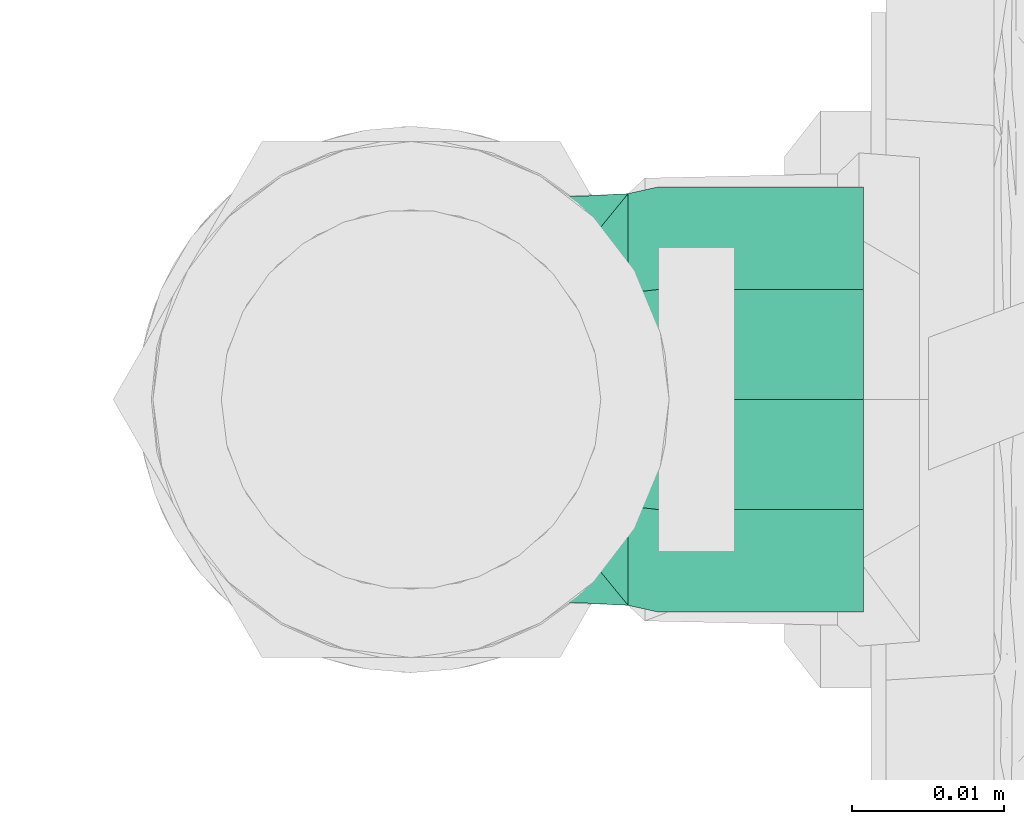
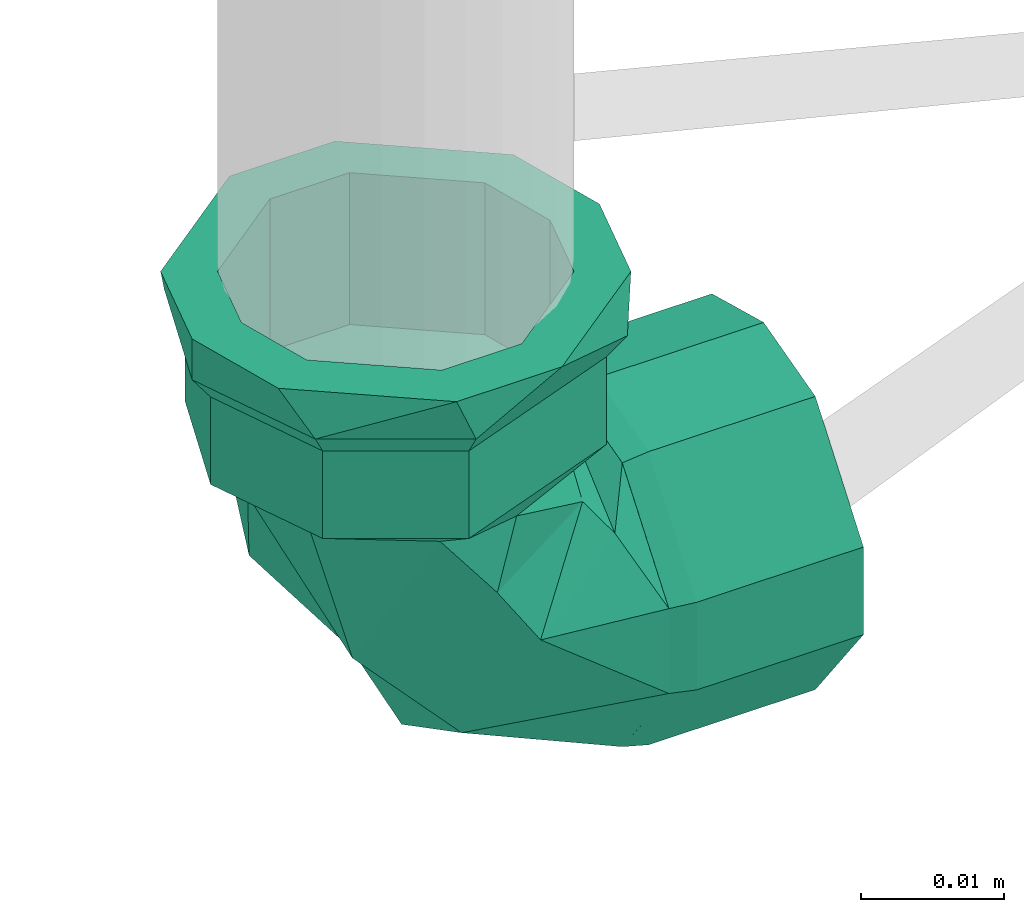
# One storey, part 392 of 589: 1 flow fitting.
"""IFC2X3 building model written with IfcOpenShell, lengths in millimetres."""

from ifc_helpers import new_model, entity, si_unit, converted_unit, derived_unit, direction, frame, origin, place, context, subcontext, project, spatial, faceted_brep, source, transform, mapped, material, type_object, type_shapes, element, save


model = new_model("IFC2X3")

# Units and contexts
model_context = context("Model", 3, precision=0.01, world=origin(), true_north=direction((6.123031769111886e-17, 1.0)))
body_context = subcontext(model_context, "Body", "Model", "MODEL_VIEW")
ifc_project = project(units=[si_unit("LENGTHUNIT", "METRE", prefix="MILLI"), si_unit("AREAUNIT", "SQUARE_METRE"), si_unit("VOLUMEUNIT", "CUBIC_METRE"), converted_unit("PLANEANGLEUNIT", "DEGREE", entity("IfcRatioMeasure", 0.017453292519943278), si_unit("PLANEANGLEUNIT", "RADIAN"), dimensions=[0, 0, 0, 0, 0, 0, 0]), si_unit("MASSUNIT", "GRAM", prefix="KILO"), derived_unit("MASSDENSITYUNIT", [(si_unit("MASSUNIT", "GRAM", prefix="KILO"), 1), (si_unit("LENGTHUNIT", "METRE"), -3)]), derived_unit("IONCONCENTRATIONUNIT", [(si_unit("MASSUNIT", "GRAM", prefix="KILO"), 1), (si_unit("LENGTHUNIT", "METRE"), -3)]), derived_unit("MOMENTOFINERTIAUNIT", [(si_unit("LENGTHUNIT", "METRE"), 4)]), si_unit("TIMEUNIT", "SECOND"), si_unit("FREQUENCYUNIT", "HERTZ"), si_unit("THERMODYNAMICTEMPERATUREUNIT", "DEGREE_CELSIUS"), derived_unit("THERMALTRANSMITTANCEUNIT", [(si_unit("MASSUNIT", "GRAM", prefix="KILO"), 1), (si_unit("THERMODYNAMICTEMPERATUREUNIT", "KELVIN"), -1), (si_unit("TIMEUNIT", "SECOND"), -3)]), derived_unit("THERMALCONDUCTANCEUNIT", [(si_unit("MASSUNIT", "GRAM", prefix="KILO"), 1), (si_unit("THERMODYNAMICTEMPERATUREUNIT", "KELVIN"), -1), (si_unit("TIMEUNIT", "SECOND"), -3), (si_unit("LENGTHUNIT", "METRE"), 1)]), derived_unit("VOLUMETRICFLOWRATEUNIT", [(si_unit("LENGTHUNIT", "METRE"), 3), (si_unit("TIMEUNIT", "SECOND"), -1)]), derived_unit("MASSFLOWRATEUNIT", [(si_unit("MASSUNIT", "GRAM", prefix="KILO"), 1), (si_unit("TIMEUNIT", "SECOND"), -1)]), derived_unit("ROTATIONALFREQUENCYUNIT", [(si_unit("TIMEUNIT", "SECOND"), -1)]), si_unit("ELECTRICCURRENTUNIT", "AMPERE"), si_unit("ELECTRICVOLTAGEUNIT", "VOLT"), si_unit("POWERUNIT", "WATT"), si_unit("FORCEUNIT", "NEWTON", prefix="KILO"), si_unit("ILLUMINANCEUNIT", "LUX"), si_unit("LUMINOUSFLUXUNIT", "LUMEN"), si_unit("LUMINOUSINTENSITYUNIT", "CANDELA"), derived_unit("USERDEFINED", [(si_unit("MASSUNIT", "GRAM", prefix="KILO"), -1), (si_unit("LENGTHUNIT", "METRE"), -2), (si_unit("TIMEUNIT", "SECOND"), 3), (si_unit("LUMINOUSFLUXUNIT", "LUMEN"), 1)]), derived_unit("USERDEFINED", [(si_unit("MASSUNIT", "GRAM", prefix="KILO"), 1), (si_unit("TIMEUNIT", "SECOND"), -3), (si_unit("LENGTHUNIT", "METRE"), 3), (si_unit("ELECTRICCURRENTUNIT", "AMPERE"), -2)]), derived_unit("SOUNDPOWERUNIT", [(si_unit("MASSUNIT", "GRAM", prefix="KILO"), 1), (si_unit("TIMEUNIT", "SECOND"), -3), (si_unit("LENGTHUNIT", "METRE"), 2)]), derived_unit("SOUNDPRESSUREUNIT", [(si_unit("MASSUNIT", "GRAM", prefix="KILO"), 1), (si_unit("LENGTHUNIT", "METRE"), -1), (si_unit("TIMEUNIT", "SECOND"), -2)]), derived_unit("LINEARVELOCITYUNIT", [(si_unit("LENGTHUNIT", "METRE"), 1), (si_unit("TIMEUNIT", "SECOND"), -1)]), si_unit("PRESSUREUNIT", "PASCAL"), derived_unit("USERDEFINED", [(si_unit("MASSUNIT", "GRAM", prefix="KILO"), 1), (si_unit("LENGTHUNIT", "METRE"), -2), (si_unit("TIMEUNIT", "SECOND"), -2)]), derived_unit("LINEARFORCEUNIT", [(si_unit("MASSUNIT", "GRAM", prefix="KILO"), 1), (si_unit("TIMEUNIT", "SECOND"), -2)]), derived_unit("PLANARFORCEUNIT", [(si_unit("MASSUNIT", "GRAM", prefix="KILO"), 1), (si_unit("LENGTHUNIT", "METRE"), -1), (si_unit("TIMEUNIT", "SECOND"), -2)]), derived_unit("SPECIFICHEATCAPACITYUNIT", [(si_unit("THERMODYNAMICTEMPERATUREUNIT", "KELVIN"), -1), (si_unit("LENGTHUNIT", "METRE"), 2), (si_unit("TIMEUNIT", "SECOND"), -2)]), derived_unit("HEATINGVALUEUNIT", [(si_unit("LENGTHUNIT", "METRE"), 2), (si_unit("TIMEUNIT", "SECOND"), -2)]), derived_unit("VAPORPERMEABILITYUNIT", [(si_unit("LENGTHUNIT", "METRE"), -1), (si_unit("TIMEUNIT", "SECOND"), 1)]), derived_unit("DYNAMICVISCOSITYUNIT", [(si_unit("MASSUNIT", "GRAM", prefix="KILO"), 1), (si_unit("TIMEUNIT", "SECOND"), -1), (si_unit("LENGTHUNIT", "METRE"), -1)]), derived_unit("THERMALEXPANSIONCOEFFICIENTUNIT", [(si_unit("THERMODYNAMICTEMPERATUREUNIT", "KELVIN"), -1)]), derived_unit("MODULUSOFELASTICITYUNIT", [(si_unit("MASSUNIT", "GRAM", prefix="KILO"), 1), (si_unit("LENGTHUNIT", "METRE"), -1), (si_unit("TIMEUNIT", "SECOND"), -2)]), derived_unit("ISOTHERMALMOISTURECAPACITYUNIT", [(si_unit("LENGTHUNIT", "METRE"), 3), (si_unit("MASSUNIT", "GRAM", prefix="KILO"), -1)]), derived_unit("MOISTUREDIFFUSIVITYUNIT", [(si_unit("TIMEUNIT", "SECOND"), -1), (si_unit("LENGTHUNIT", "METRE"), 2)])], contexts=[model_context])

# Site, building, storey
site_placement = place(None, origin())
site = spatial("IfcSite", under=ifc_project, at=site_placement, Name="Default", CompositionType="ELEMENT")
building_placement = place(site_placement, origin())
building = spatial("IfcBuilding", under=site, at=building_placement, CompositionType="ELEMENT")
storey_placement = place(building_placement, frame((0.0, 0.0, 100.0)))
storey = spatial("IfcBuildingStorey", under=building, at=storey_placement, Name="TÉRREO", CompositionType="ELEMENT", Elevation=100.0)

# Flow fitting
ifc_material = material(Name="PVC Azul")
pipe_fitting_type = type_object("IfcPipeFittingType", Name="PVC Marrom Soldável_Joelho 90° Azul com Bucha de Latão_Rodrigo MEP:Joelho_20x1/2''_ 25x1/2''_ 25x3/4'' _ 32x3/4''", PredefinedType="NOTDEFINED", material=ifc_material)
shared_shape = source(origin(), body_context, "Body", "Brep", [
    faceted_brep([(-16.299999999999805, 2.5881904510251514, -9.659258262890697), (-16.299999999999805, -2.588190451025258, -9.659258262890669), (-16.299999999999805, -3.7528761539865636, -14.005924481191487), (-16.299999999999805, 3.7528761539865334, -14.005924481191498), (-16.299999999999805, 8.660254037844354, -5.0), (-16.299999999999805, -12.557368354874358, -7.249999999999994), (-16.299999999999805, -8.660254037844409, -5.0), (-16.299999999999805, -10.0, 0.0), (-16.299999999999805, -14.499999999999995, 0.0), (-16.299999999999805, -8.660254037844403, 5.0), (-16.299999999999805, -12.557368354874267, 7.250000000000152), (-16.299999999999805, -2.5881904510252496, 9.659258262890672), (-16.299999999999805, -3.752876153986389, 14.005924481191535), (-16.299999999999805, 2.5881904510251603, 9.659258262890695), (-16.299999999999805, 3.752876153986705, 14.005924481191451), (-16.299999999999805, 8.660254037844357, 5.0), (-16.299999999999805, 12.557368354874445, 7.2499999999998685), (-16.299999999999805, 14.500000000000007, 0.0), (-16.299999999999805, 10.0, 0.0), (-16.299999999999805, 12.557368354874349, -7.250000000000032), (-23.799999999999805, 14.500000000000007, 0.0), (-25.7999999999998, 14.500000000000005, 0.0), (-29.7999999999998, 14.500000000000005, 0.0), (-29.7999999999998, 12.557368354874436, 7.24999999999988), (-25.7999999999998, 12.557368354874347, 7.250000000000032), (-23.799999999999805, 12.557368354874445, 7.2499999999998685), (-29.7999999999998, 3.7528761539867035, 14.005924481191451), (-25.7999999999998, 3.7528761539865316, 14.005924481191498), (-23.799999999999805, 3.752876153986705, 14.005924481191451), (-29.7999999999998, -3.75287615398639, 14.005924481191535), (-25.7999999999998, -3.752876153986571, 14.005924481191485), (-23.799999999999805, -3.752876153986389, 14.005924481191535), (-29.7999999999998, -12.557368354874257, 7.250000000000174), (-25.7999999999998, -12.557368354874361, 7.24999999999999), (-23.799999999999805, -12.557368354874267, 7.250000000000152), (-29.7999999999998, -14.499999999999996, 0.0), (-25.7999999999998, -14.499999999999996, 0.0), (-23.799999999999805, -14.499999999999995, 0.0), (-29.7999999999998, -12.557368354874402, -7.249999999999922), (-25.7999999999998, -12.557368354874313, -7.250000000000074), (-23.799999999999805, -12.557368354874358, -7.249999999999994), (-29.7999999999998, -3.752876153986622, -14.005924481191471), (-25.7999999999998, -3.752876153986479, -14.00592448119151), (-23.799999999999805, -3.7528761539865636, -14.005924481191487), (-29.7999999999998, 3.752876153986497, -14.005924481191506), (-25.7999999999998, 3.7528761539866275, -14.005924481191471), (-23.799999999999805, 3.7528761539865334, -14.005924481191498), (-29.7999999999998, 12.557368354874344, -7.250000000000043), (-25.7999999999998, 12.55736835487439, -7.249999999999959), (-23.799999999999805, 12.557368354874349, -7.250000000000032), (-29.7999999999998, -10.0, 0.0), (-29.7999999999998, -8.660254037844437, 5.0), (-29.7999999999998, -2.5881904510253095, 9.659258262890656), (-29.7999999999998, 2.5881904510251, 9.659258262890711), (-29.7999999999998, 8.660254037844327, 5.0), (-29.79999999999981, 10.0, 0.0), (-29.7999999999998, 8.660254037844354, -5.0), (-29.7999999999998, 2.588190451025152, -9.659258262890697), (-29.7999999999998, -2.588190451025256, -9.659258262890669), (-29.7999999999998, -8.66025403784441, -5.0)], [[[0, 1, 2]], [[2, 3, 0]], [[4, 0, 3]], [[5, 2, 1]], [[1, 6, 5]], [[6, 7, 5]], [[8, 5, 7]], [[8, 7, 9]], [[10, 8, 9]], [[9, 11, 10]], [[11, 12, 10]], [[13, 12, 11]], [[12, 13, 14]], [[13, 15, 14]], [[16, 14, 15]], [[16, 15, 17]], [[17, 15, 18]], [[18, 4, 19]], [[17, 18, 19]], [[3, 19, 4]], [[17, 20, 21, 22, 23, 24, 25, 16]], [[16, 25, 24, 23, 26, 27, 28, 14]], [[28, 27, 26, 29, 30, 31, 12, 14]], [[12, 31, 30, 29, 32, 33, 34, 10]], [[10, 34, 33, 32, 35, 36, 37, 8]], [[8, 37, 36, 35, 38, 39, 40, 5]], [[5, 40, 39, 38, 41, 42, 43, 2]], [[43, 42, 41, 44, 45, 46, 3, 2]], [[3, 46, 45, 44, 47, 48, 49, 19]], [[19, 49, 48, 47, 22, 21, 20, 17]], [[9, 7, 50, 51]], [[11, 9, 51, 52]], [[52, 53, 13, 11]], [[15, 13, 53, 54]], [[18, 15, 54, 55]], [[4, 18, 55, 56]], [[0, 4, 56, 57]], [[57, 58, 1, 0]], [[6, 1, 58, 59]], [[7, 6, 59, 50]], [[41, 58, 57]], [[58, 41, 38]], [[57, 44, 41]], [[38, 59, 58]], [[38, 50, 59]], [[50, 38, 35]], [[51, 50, 35]], [[51, 35, 32]], [[32, 52, 51]], [[32, 29, 52]], [[52, 29, 53]], [[26, 53, 29]], [[26, 54, 53]], [[54, 26, 23]], [[22, 54, 23]], [[55, 54, 22]], [[47, 55, 22]], [[47, 56, 55]], [[56, 47, 44]], [[44, 57, 56]]]),
    faceted_brep([(-16.299999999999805, -12.557368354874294, -7.250000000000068), (-16.299999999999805, -14.499999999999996, 0.0), (-16.299999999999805, -12.55736835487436, 7.249999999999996), (-16.299999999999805, -3.752876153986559, 14.005924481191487), (-16.299999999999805, 3.752876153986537, 14.005924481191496), (-16.299999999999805, 12.557368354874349, 7.250000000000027), (-16.299999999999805, 14.500000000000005, 0.0), (-16.299999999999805, 12.557368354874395, -7.249999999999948), (-16.299999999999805, 3.75287615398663, -14.005924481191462), (-16.299999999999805, -3.7528761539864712, -14.005924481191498), (-14.299999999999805, 3.6338193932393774, 13.56159860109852), (-14.299999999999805, -3.633819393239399, 13.561598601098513), (-14.299999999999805, -12.158996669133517, 7.019999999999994), (-14.299999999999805, -14.039999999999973, 0.0), (-14.299999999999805, -12.158996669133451, -7.020000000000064), (-14.299999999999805, -3.6338193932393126, -13.561598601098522), (-14.299999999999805, 3.633819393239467, -13.561598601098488), (-14.299999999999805, 12.158996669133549, -7.01999999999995), (-14.299999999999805, 14.040000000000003, 0.0), (-14.299999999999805, 12.158996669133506, 7.020000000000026)], [[[0, 1, 2, 3, 4, 5, 6, 7, 8, 9]], [[10, 11, 12, 13, 14, 15, 16, 17, 18, 19]], [[7, 6, 18, 17]], [[8, 7, 17, 16]], [[16, 15, 9, 8]], [[0, 9, 15, 14]], [[1, 0, 14, 13]], [[2, 1, 13, 12]], [[3, 2, 12, 11]], [[11, 10, 4, 3]], [[5, 4, 10, 19]], [[6, 5, 19, 18]]]),
    faceted_brep([(-3.1058285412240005, 14.30000000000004, 11.591109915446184), (-10.392304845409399, 14.30000000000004, 6.0), (-12.0, 14.30000000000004, 0.0), (-10.392304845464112, 14.30000000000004, -6.0), (-3.105828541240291, 14.30000000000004, -11.591109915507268), (3.1058285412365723, 14.30000000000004, -11.591109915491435), (10.392304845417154, 14.30000000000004, -6.0), (12.0, 14.30000000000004, 0.0), (10.392304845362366, 14.30000000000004, 6.0), (3.105828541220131, 14.30000000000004, 11.59110991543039), (11.490129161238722, 16.29999999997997, -9.64245465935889), (15.0, 16.300000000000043, 0.0), (2.6030757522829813, 16.29999999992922, -14.772406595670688), (-15.0, 16.299999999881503, 0.0), (-11.492547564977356, 16.299999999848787, -9.639572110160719), (-11.4925475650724, 16.300000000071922, 9.639572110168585), (-2.606781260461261, 16.300000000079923, 14.771753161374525), (11.490129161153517, 16.300000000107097, 9.642454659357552), (15.0, 23.800000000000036, 0.0), (11.490129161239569, 23.800000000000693, 9.64245465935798), (-2.606781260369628, 23.800000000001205, 14.771753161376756), (-11.492547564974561, 23.800000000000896, 9.63957211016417), (-15.0, 23.800000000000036, 0.0), (-11.492547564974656, 23.79999999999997, -9.639572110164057), (2.603075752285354, 23.799999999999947, -14.772406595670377), (11.4901291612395, 23.799999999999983, -9.642454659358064), (-12.639142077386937, 25.800000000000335, 10.606700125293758), (-16.500000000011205, 25.800000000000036, 0.0), (-2.8633833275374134, 25.800000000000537, 16.249647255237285), (12.641802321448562, 25.800000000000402, 10.603529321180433), (16.499999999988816, 25.800000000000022, 0.0), (12.641802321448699, 25.800000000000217, -10.603529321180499), (2.867459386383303, 25.800000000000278, -16.24892847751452), (-12.639142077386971, 25.800000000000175, -10.606700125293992), (-4.270514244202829, 29.30000000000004, -15.937776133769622), (-3.235238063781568, 29.30000000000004, -12.074072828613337), (3.235238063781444, 29.30000000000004, -12.074072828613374), (-14.28941916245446, 29.30000000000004, -8.249999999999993), (4.27051424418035, 29.30000000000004, -15.937776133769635), (-10.825317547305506, 29.30000000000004, -6.249999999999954), (-12.499999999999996, 29.30000000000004, 0.0), (-16.500000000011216, 29.30000000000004, 0.0), (-10.825317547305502, 29.30000000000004, 6.249999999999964), (-14.289419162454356, 29.30000000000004, 8.250000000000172), (-3.2352380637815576, 29.30000000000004, 12.074072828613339), (-4.27051424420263, 29.30000000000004, 15.937776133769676), (3.235238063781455, 29.30000000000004, 12.07407282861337), (4.2705142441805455, 29.30000000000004, 15.937776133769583), (10.82531754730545, 29.30000000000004, 6.250000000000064), (14.289419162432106, 29.30000000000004, 8.249999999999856), (16.499999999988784, 29.30000000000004, 0.0), (12.500000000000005, 29.30000000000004, 0.0), (14.289419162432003, 29.30000000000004, -8.250000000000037), (10.825317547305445, 29.30000000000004, -6.250000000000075), (-10.825317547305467, 16.300000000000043, -6.2500000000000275), (-12.499999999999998, 16.300000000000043, 0.0), (-10.825317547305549, 16.300000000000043, 6.249999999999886), (-3.2352380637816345, 16.30000000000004, 12.074072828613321), (3.2352380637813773, 16.30000000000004, 12.07407282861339), (10.825317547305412, 16.300000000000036, 6.250000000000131), (12.500000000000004, 16.300000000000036, 0.0), (10.82531754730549, 16.300000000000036, -6.249999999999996), (3.235238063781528, 16.30000000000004, -12.07407282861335), (-3.2352380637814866, 16.30000000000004, -12.07407282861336)], [[[0, 1, 2, 3, 4, 5, 6, 7, 8, 9]], [[6, 5, 10]], [[7, 6, 11]], [[11, 6, 10]], [[5, 12, 10]], [[3, 2, 13]], [[4, 3, 14]], [[4, 14, 12]], [[14, 3, 13]], [[4, 12, 5]], [[1, 0, 15]], [[2, 1, 13]], [[13, 1, 15]], [[0, 16, 15]], [[8, 7, 11]], [[9, 8, 17]], [[9, 17, 16]], [[17, 8, 11]], [[9, 16, 0]], [[18, 19, 17, 11]], [[17, 19, 20, 16]], [[21, 22, 13, 15]], [[21, 15, 16, 20]], [[22, 23, 14, 13]], [[14, 23, 24, 12]], [[25, 18, 11, 10]], [[25, 10, 12, 24]], [[21, 20, 26]], [[22, 21, 27]], [[27, 21, 26]], [[20, 28, 26]], [[19, 18, 29]], [[29, 28, 19]], [[30, 29, 18]], [[19, 28, 20]], [[18, 25, 31]], [[31, 30, 18]], [[32, 31, 25]], [[25, 24, 32]], [[23, 22, 27]], [[23, 33, 24]], [[33, 23, 27]], [[24, 33, 32]], [[34, 35, 36]], [[35, 34, 37]], [[36, 38, 34]], [[37, 39, 35]], [[37, 40, 39]], [[40, 37, 41]], [[42, 40, 41]], [[42, 41, 43]], [[43, 44, 42]], [[43, 45, 44]], [[44, 45, 46]], [[47, 46, 45]], [[47, 48, 46]], [[48, 47, 49]], [[50, 48, 49]], [[51, 48, 50]], [[52, 51, 50]], [[52, 53, 51]], [[53, 52, 38]], [[38, 36, 53]], [[50, 49, 30]], [[49, 29, 30]], [[29, 49, 47]], [[29, 47, 28]], [[26, 45, 43]], [[27, 43, 41]], [[45, 26, 28]], [[26, 43, 27]], [[45, 28, 47]], [[41, 37, 27]], [[37, 33, 27]], [[33, 37, 34]], [[33, 34, 32]], [[31, 38, 52]], [[30, 52, 50]], [[38, 31, 32]], [[31, 52, 30]], [[38, 32, 34]], [[54, 55, 56, 57, 58, 59, 60, 61, 62, 63]], [[56, 55, 40, 42]], [[57, 56, 42, 44]], [[44, 46, 58, 57]], [[59, 58, 46, 48]], [[60, 59, 48, 51]], [[61, 60, 51, 53]], [[62, 61, 53, 36]], [[36, 35, 63, 62]], [[54, 63, 35, 39]], [[55, 54, 39, 40]]]),
    faceted_brep([(3.1056480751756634, 14.299999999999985, 11.590538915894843), (10.391809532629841, 14.299999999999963, 5.999601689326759), (12.0, 14.299999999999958, 0.0), (10.39180953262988, 14.299999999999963, -5.999601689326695), (3.1056480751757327, 14.299999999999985, -11.590538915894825), (-3.10520360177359, 14.300000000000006, -11.590281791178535), (-10.38010506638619, 14.300000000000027, -5.994904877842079), (-12.0, 14.300000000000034, 0.0), (-10.380105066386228, 14.300000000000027, 5.994904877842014), (-3.1052036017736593, 14.300000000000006, 11.590281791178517), (-14.299999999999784, 3.633088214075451, 13.560629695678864), (-14.299999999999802, 12.144722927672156, 7.014038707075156), (-14.299999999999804, 14.040000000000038, 0.0), (-14.299999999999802, 12.144722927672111, -7.0140387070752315), (-14.299999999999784, 3.63308821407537, -13.560629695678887), (-14.299999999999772, -3.633608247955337, -13.560930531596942), (-14.299999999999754, -12.158417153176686, -7.019533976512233), (-14.299999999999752, -14.039999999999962, 0.0), (-14.299999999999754, -12.158417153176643, 7.019533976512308), (-14.299999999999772, -3.6336082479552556, 13.560930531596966), (-0.47130784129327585, -9.652655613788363, 0.0), (-13.394903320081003, 13.394903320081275, 0.0), (-11.731981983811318, 9.090980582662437, -10.425762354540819), (7.7003635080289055, 3.2782377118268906, -7.250992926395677), (-4.216463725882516, 4.16036367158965, -13.02360333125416), (0.005590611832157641, -4.597653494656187, -9.261535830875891), (-1.015336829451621, 9.007807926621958, -12.492335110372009), (-10.008512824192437, 11.46627786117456, -8.88261575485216), (3.673289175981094, -1.6924555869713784, 0.0), (-4.216465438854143, 4.1603653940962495, 13.02360333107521), (-11.731981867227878, 9.090980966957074, 10.425762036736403), (-10.008512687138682, 11.466278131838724, 8.882615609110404), (7.700363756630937, 3.278237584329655, 7.250992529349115), (0.00558956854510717, -4.597653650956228, 9.26153641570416), (-1.0153385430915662, 9.00780860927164, 12.492335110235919)], [[[0, 1, 2, 3, 4, 5, 6, 7, 8, 9]], [[10, 11, 12, 13, 14, 15, 16, 17, 18, 19]], [[20, 17, 16]], [[21, 22, 13]], [[4, 3, 23]], [[15, 24, 25]], [[26, 24, 27]], [[25, 23, 28]], [[15, 25, 16]], [[28, 20, 25]], [[23, 24, 26]], [[24, 14, 22]], [[26, 4, 23]], [[24, 22, 27]], [[14, 13, 22]], [[20, 16, 25]], [[13, 12, 21]], [[27, 22, 21]], [[2, 28, 23]], [[27, 5, 26]], [[27, 21, 7]], [[7, 6, 27]], [[27, 6, 5]], [[15, 14, 24]], [[2, 23, 3]], [[5, 4, 26]], [[23, 25, 24]], [[21, 12, 11]], [[29, 30, 10]], [[31, 9, 8]], [[29, 31, 30]], [[32, 29, 33]], [[21, 31, 7]], [[18, 20, 33]], [[31, 29, 34]], [[11, 10, 30]], [[31, 34, 9]], [[7, 31, 8]], [[21, 30, 31]], [[19, 18, 33]], [[32, 33, 28]], [[18, 17, 20]], [[20, 28, 33]], [[32, 34, 29]], [[19, 33, 29]], [[30, 21, 11]], [[34, 32, 0]], [[32, 2, 1]], [[10, 19, 29]], [[32, 1, 0]], [[0, 9, 34]], [[2, 32, 28]]]),
])
type_shapes(pipe_fitting_type, [shared_shape])
flow_fitting_placement = place(storey_placement, frame((4629.553225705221, -949.8765311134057, 600.0), z_axis=(0.0, 1.0, 0.0), x_axis=(-1.0, 0.0, 0.0)))
element("IfcFlowFitting", 1, at=flow_fitting_placement, inside=storey, type_object=pipe_fitting_type, material=ifc_material, Name="PVC Marrom Soldável_Joelho 90° Azul com Bucha de Latão_Rodrigo MEP:Joelho_20x1/2''_ 25x1/2''_ 25x3/4'' _ 32x3/4''", ObjectType="PVC Marrom Soldável_Joelho 90° Azul com Bucha de Latão_Rodrigo MEP:Joelho_20x1/2''_ 25x1/2''_ 25x3/4'' _ 32x3/4''", context=body_context, shape_type="MappedRepresentation", body=[
    mapped(shared_shape, transform((0.0, 0.0, 0.0), scale=1.0)),
])

save(model, "model.ifc")
